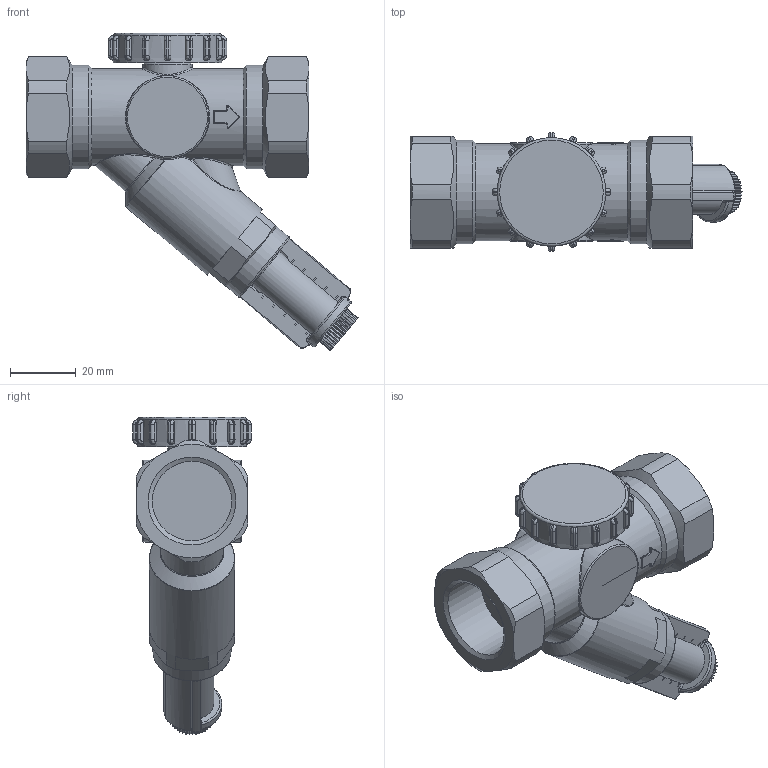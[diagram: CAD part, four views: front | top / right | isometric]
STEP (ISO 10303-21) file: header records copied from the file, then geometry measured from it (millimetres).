
FILE_DESCRIPTION(/* description */ ('WattFlow OL 2-16 L/min 3/4"IG - Konturvereinfachung'),/* implementation_level */ '2;1');
FILE_NAME(/* name */ 'C:\Users\duckj\Desktop\01062017_011.stp',/* time_stamp */ '2018-10-08T15:45:42+02:00',/* author */ ('duckj'),/* organization */ (''),/* preprocessor_version */ 'ST-DEVELOPER v17',/* originating_system */ 'Autodesk Inventor 2018',/* authorisation */ '');
FILE_SCHEMA (('AUTOMOTIVE_DESIGN { 1 0 10303 214 3 1 1 }'));
Length unit declared in the file: millimetre
Products named in the file (1): 01062017_011
Bounding box: 100.91 x 36 x 96.57 mm (x, y, z)
Volume: 92015.1 mm3; surface area: 29189.6 mm2
Topology: 3 solids, 3 shells, 779 faces, 2043 edges, 1248 vertices
Faces by surface type: plane 365, cylinder 238, bspline 102, cone 33, torus 25, sphere 16
Full cylindrical faces by diameter (mm): 13.2 x1, 13.4 x1, 14 x1, 15 x1, 18.2 x1, 22 x1, 22.1 x1, 23.8 x1, 24.117 x2, 26 x1, 29.5 x1, 31.5 x2, 33 x1
Entity records: 27414 total; most frequent: CARTESIAN_POINT 7785, ORIENTED_EDGE 4064, DIRECTION 3931, EDGE_CURVE 2032, AXIS2_PLACEMENT_3D 1466, VERTEX_POINT 1249, LINE 999, VECTOR 999
